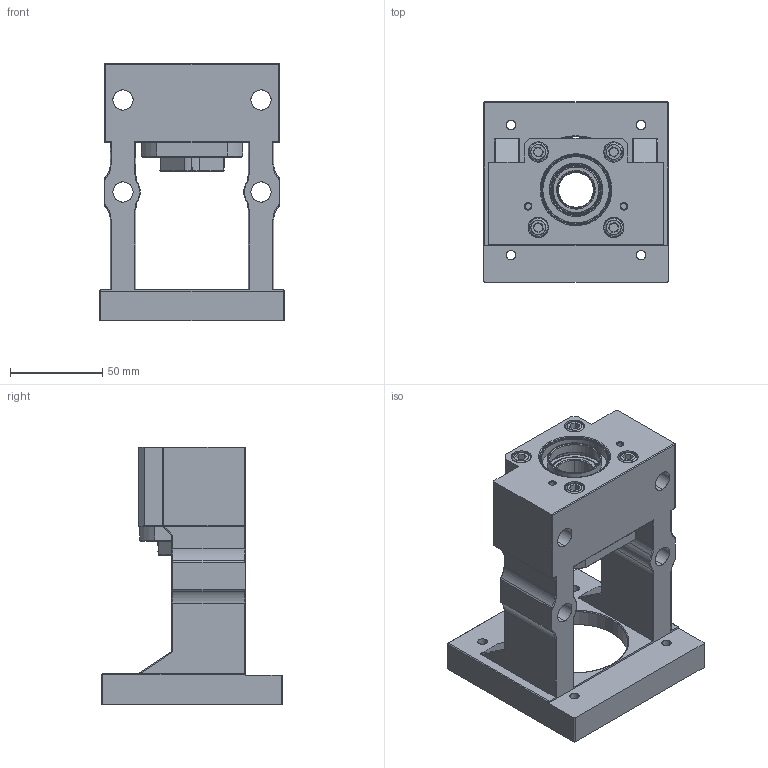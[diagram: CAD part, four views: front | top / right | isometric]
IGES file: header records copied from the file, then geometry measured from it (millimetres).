
Start section: SolidWorks IGES file using analytic representation for surfaces
Global section: file name: C:\Users\117\Desktop\1061208網站3D圖檔問題處理\傳動座\整合型\MBCS(F)\MBCF20\MBCF20-X.IGS,15HSolidWorks; native system: 2017; preprocessor: SolidWorks 2017; author: 117; date: 171228.152756; units: millimetre
Bounding box: 100 x 98 x 140 mm (x, y, z)
Surface area: 84775.3 mm2 (no closed solid volume)
Topology: 0 solids, 0 shells, 363 faces, 5322 edges, 5318 vertices
Faces by surface type: revolution 192, bspline 171
